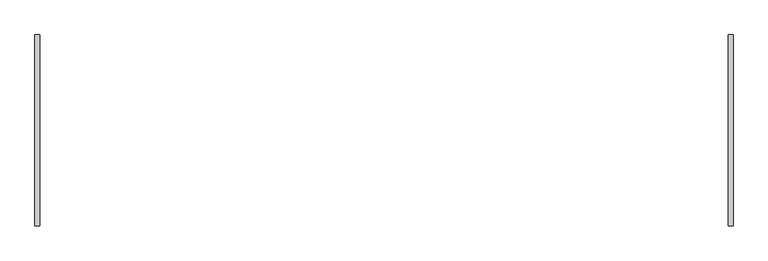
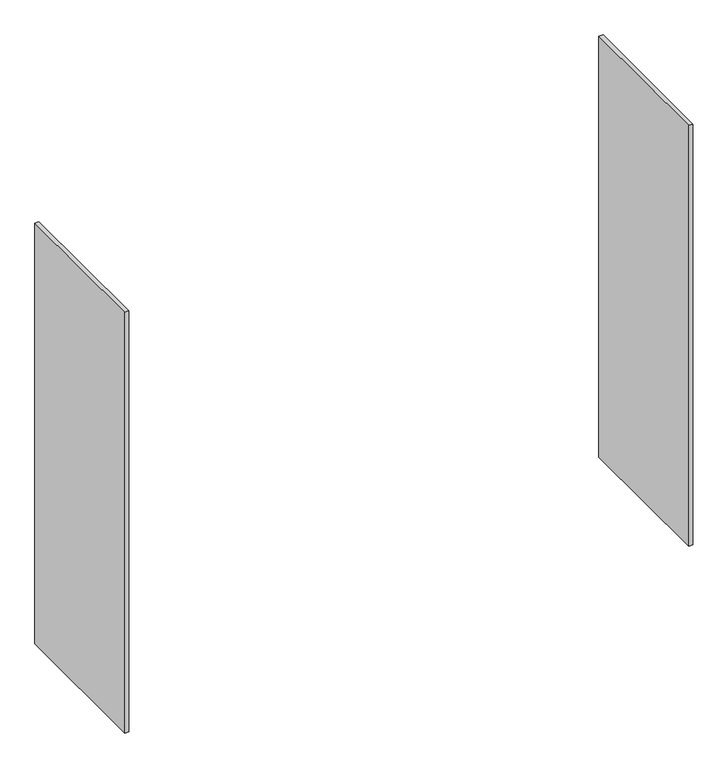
"""IFC4 building model written with IfcOpenShell, lengths in millimetres: furniture geometry, Lockers-Bay-Duracube-End of Trip : LWM-1900h x 500d @ 470h Wall."""

from ifc_helpers import new_model, si_unit, frame, origin, place, context, project, spatial, polyline, outline, extrude, source, transform, mapped, element, save


def furniture_aa930519(model_context):
    return source(origin(), model_context, "Body", "SweptSolid", [
        extrude(outline(polyline([(1813.0, 250.0), (1826.0, 250.0), (1826.0, -250.0), (1813.0, -250.0), (1813.0, 250.0)])), frame((0.0, 0.0, 470.0), z_axis=(0.0, 0.0, 1.0), x_axis=(1.0, 0.0, 0.0)), (0.0, 0.0, 1.0), 1430.0),
        extrude(outline(polyline([(0.0, 250.0), (13.0, 250.0), (13.0, -250.0), (0.0, -250.0), (0.0, 250.0)])), frame((0.0, 0.0, 470.0), z_axis=(0.0, 0.0, 1.0), x_axis=(1.0, 0.0, 0.0)), (0.0, 0.0, 1.0), 1430.0),
    ])


if __name__ == "__main__":
    model = new_model("IFC4")
    model_context = context("Model", 3, world=origin())
    ifc_project = project(units=[si_unit("LENGTHUNIT", "METRE", prefix="MILLI")], contexts=[model_context])
    site = spatial("IfcSite", under=ifc_project)
    building = spatial("IfcBuilding", under=site)
    placement = place(None, origin())
    furniture_shape = furniture_aa930519(model_context)
    element("IfcFurniture", 1, ObjectType="Lockers-Bay-Duracube-End of Trip : LWM-1900h x 500d @ 470h Wall", at=placement, inside=building, context=model_context, shape_type="MappedRepresentation", body=[
        mapped(furniture_shape, transform((0.0, 0.0, 0.0), x_axis=(1.0, 0.0, 0.0), y_axis=(0.0, 1.0, 0.0), z_axis=(0.0, 0.0, 1.0))),
    ])
    save(model, "model.ifc")
